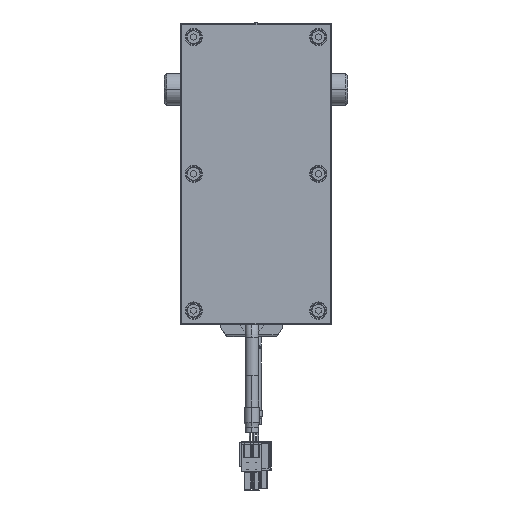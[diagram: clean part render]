
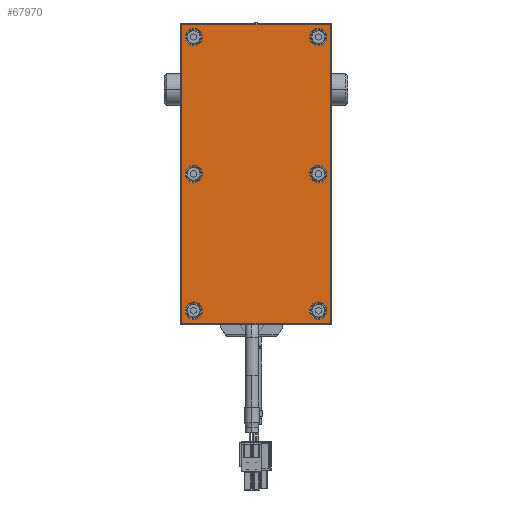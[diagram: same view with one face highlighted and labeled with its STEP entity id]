
A CAD part, front view. The second image highlights one B-rep face of the part: STEP entity #67970.
In plain terms, the highlighted planar face has unit normal (0, -1, 0).
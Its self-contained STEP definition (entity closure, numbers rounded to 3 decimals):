
#66587=CARTESIAN_POINT('',(74.,-6.,-36.5));
#66588=DIRECTION('',(0.,-1.,0.));
#66589=DIRECTION('',(0.,0.,-1.));
#66590=AXIS2_PLACEMENT_3D('',#66587,#66588,#66589);
#66592=DIRECTION('',(1.,0.,0.));
#66593=VECTOR('',#66592,148.);
#66594=CARTESIAN_POINT('',(-74.,-6.,
-37.));
#66595=LINE('',#66594,#66593);
#66596=CARTESIAN_POINT('',(-74.,-6.,-36.5));
#66597=DIRECTION('',(0.,-1.,0.));
#66598=DIRECTION('',(-1.,0.,0.));
#66599=AXIS2_PLACEMENT_3D('',#66596,#66597,#66598);
#66601=DIRECTION('',(0.,0.,-1.));
#66602=VECTOR('',#66601,73.);
#66603=CARTESIAN_POINT('',(-74.5,-6.,
36.5));
#66604=LINE('',#66603,#66602);
#66605=CARTESIAN_POINT('',(-74.,-6.,36.5));
#66606=DIRECTION('',(0.,-1.,0.));
#66607=DIRECTION('',(0.,0.,1.));
#66608=AXIS2_PLACEMENT_3D('',#66605,#66606,#66607);
#66610=DIRECTION('',(-1.,0.,0.));
#66611=VECTOR('',#66610,148.);
#66612=CARTESIAN_POINT('',(74.,-6.,
37.));
#66613=LINE('',#66612,#66611);
#66614=CARTESIAN_POINT('',(74.,-6.,36.5));
#66615=DIRECTION('',(0.,-1.,0.));
#66616=DIRECTION('',(1.,0.,0.));
#66617=AXIS2_PLACEMENT_3D('',#66614,#66615,#66616);
#66619=DIRECTION('',(0.,0.,1.));
#66620=VECTOR('',#66619,73.);
#66621=CARTESIAN_POINT('',(74.5,-6.,
-36.5));
#66622=LINE('',#66621,#66620);
#66623=CARTESIAN_POINT('',(-68.,-6.,-31.));
#66624=DIRECTION('',(0.,1.,0.));
#66625=DIRECTION('',(1.,0.,0.));
#66626=AXIS2_PLACEMENT_3D('',#66623,#66624,#66625);
#66628=CARTESIAN_POINT('',(-68.,-6.,-31.));
#66629=DIRECTION('',(0.,1.,0.));
#66630=DIRECTION('',(-1.,0.,0.));
#66631=AXIS2_PLACEMENT_3D('',#66628,#66629,#66630);
#66633=CARTESIAN_POINT('',(0.,-6.,-31.));
#66634=DIRECTION('',(0.,1.,0.));
#66635=DIRECTION('',(1.,0.,0.));
#66636=AXIS2_PLACEMENT_3D('',#66633,#66634,#66635);
#66638=CARTESIAN_POINT('',(0.,-6.,-31.));
#66639=DIRECTION('',(0.,1.,0.));
#66640=DIRECTION('',(-1.,0.,0.));
#66641=AXIS2_PLACEMENT_3D('',#66638,#66639,#66640);
#66643=CARTESIAN_POINT('',(68.,-6.,-31.));
#66644=DIRECTION('',(0.,1.,0.));
#66645=DIRECTION('',(1.,0.,0.));
#66646=AXIS2_PLACEMENT_3D('',#66643,#66644,#66645);
#66648=CARTESIAN_POINT('',(68.,-6.,-31.));
#66649=DIRECTION('',(0.,1.,0.));
#66650=DIRECTION('',(-1.,0.,0.));
#66651=AXIS2_PLACEMENT_3D('',#66648,#66649,#66650);
#66653=CARTESIAN_POINT('',(68.,-6.,31.));
#66654=DIRECTION('',(0.,1.,0.));
#66655=DIRECTION('',(1.,0.,0.));
#66656=AXIS2_PLACEMENT_3D('',#66653,#66654,#66655);
#66658=CARTESIAN_POINT('',(68.,-6.,31.));
#66659=DIRECTION('',(0.,1.,0.));
#66660=DIRECTION('',(-1.,0.,0.));
#66661=AXIS2_PLACEMENT_3D('',#66658,#66659,#66660);
#66663=CARTESIAN_POINT('',(0.,-6.,31.));
#66664=DIRECTION('',(0.,1.,0.));
#66665=DIRECTION('',(1.,0.,0.));
#66666=AXIS2_PLACEMENT_3D('',#66663,#66664,#66665);
#66668=CARTESIAN_POINT('',(0.,-6.,31.));
#66669=DIRECTION('',(0.,1.,0.));
#66670=DIRECTION('',(-1.,0.,0.));
#66671=AXIS2_PLACEMENT_3D('',#66668,#66669,#66670);
#66673=CARTESIAN_POINT('',(-68.,-6.,31.));
#66674=DIRECTION('',(0.,1.,0.));
#66675=DIRECTION('',(1.,0.,0.));
#66676=AXIS2_PLACEMENT_3D('',#66673,#66674,#66675);
#66678=CARTESIAN_POINT('',(-68.,-6.,31.));
#66679=DIRECTION('',(0.,1.,0.));
#66680=DIRECTION('',(-1.,0.,0.));
#66681=AXIS2_PLACEMENT_3D('',#66678,#66679,#66680);
#67711=CARTESIAN_POINT('',(74.,-6.,-37.));
#67712=CARTESIAN_POINT('',(74.5,-6.,-36.5));
#67713=VERTEX_POINT('',#67711);
#67714=VERTEX_POINT('',#67712);
#67719=CARTESIAN_POINT('',(74.5,-6.,
36.5));
#67720=VERTEX_POINT('',#67719);
#67723=CARTESIAN_POINT('',(74.,-6.,37.));
#67724=VERTEX_POINT('',#67723);
#67727=CARTESIAN_POINT('',(-74.,-6.,
37.));
#67728=VERTEX_POINT('',#67727);
#67731=CARTESIAN_POINT('',(-74.5,-6.,36.5));
#67732=VERTEX_POINT('',#67731);
#67735=CARTESIAN_POINT('',(-74.5,-6.,
-36.5));
#67736=VERTEX_POINT('',#67735);
#67739=CARTESIAN_POINT('',(-74.,-6.,-37.));
#67740=VERTEX_POINT('',#67739);
#67767=CARTESIAN_POINT('',(-63.7,-6.,-31.));
#67768=CARTESIAN_POINT('',(-72.3,-6.,-31.));
#67769=VERTEX_POINT('',#67767);
#67770=VERTEX_POINT('',#67768);
#67783=CARTESIAN_POINT('',(4.3,-6.,-31.));
#67784=CARTESIAN_POINT('',(-4.3,-6.,-31.));
#67785=VERTEX_POINT('',#67783);
#67786=VERTEX_POINT('',#67784);
#67807=CARTESIAN_POINT('',(72.3,-6.,-31.));
#67808=CARTESIAN_POINT('',(63.7,-6.,-31.));
#67809=VERTEX_POINT('',#67807);
#67810=VERTEX_POINT('',#67808);
#67823=CARTESIAN_POINT('',(72.3,-6.,31.));
#67824=CARTESIAN_POINT('',(63.7,-6.,31.));
#67825=VERTEX_POINT('',#67823);
#67826=VERTEX_POINT('',#67824);
#67831=CARTESIAN_POINT('',(4.3,-6.,31.));
#67832=CARTESIAN_POINT('',(-4.3,-6.,31.));
#67833=VERTEX_POINT('',#67831);
#67834=VERTEX_POINT('',#67832);
#67855=CARTESIAN_POINT('',(-63.7,-6.,31.));
#67856=CARTESIAN_POINT('',(-72.3,-6.,31.));
#67857=VERTEX_POINT('',#67855);
#67858=VERTEX_POINT('',#67856);
#67911=CARTESIAN_POINT('',(0.,-6.,0.));
#67912=DIRECTION('',(0.,1.,0.));
#67913=DIRECTION('',(1.,0.,0.));
#67914=AXIS2_PLACEMENT_3D('',#67911,#67912,#67913);
#67915=PLANE('',#67914);
#67917=ORIENTED_EDGE('',*,*,#67916,.F.);
#67919=ORIENTED_EDGE('',*,*,#67918,.F.);
#67921=ORIENTED_EDGE('',*,*,#67920,.F.);
#67923=ORIENTED_EDGE('',*,*,#67922,.F.);
#67925=ORIENTED_EDGE('',*,*,#67924,.F.);
#67927=ORIENTED_EDGE('',*,*,#67926,.F.);
#67929=ORIENTED_EDGE('',*,*,#67928,.F.);
#67931=ORIENTED_EDGE('',*,*,#67930,.F.);
#67932=EDGE_LOOP('',(#67917,#67919,#67921,#67923,#67925,#67927,#67929,#67931));
#67933=FACE_OUTER_BOUND('',#67932,.F.);
#67935=ORIENTED_EDGE('',*,*,#67934,.F.);
#67937=ORIENTED_EDGE('',*,*,#67936,.F.);
#67938=EDGE_LOOP('',(#67935,#67937));
#67939=FACE_BOUND('',#67938,.F.);
#67941=ORIENTED_EDGE('',*,*,#67940,.F.);
#67943=ORIENTED_EDGE('',*,*,#67942,.F.);
#67944=EDGE_LOOP('',(#67941,#67943));
#67945=FACE_BOUND('',#67944,.F.);
#67947=ORIENTED_EDGE('',*,*,#67946,.F.);
#67949=ORIENTED_EDGE('',*,*,#67948,.F.);
#67950=EDGE_LOOP('',(#67947,#67949));
#67951=FACE_BOUND('',#67950,.F.);
#67953=ORIENTED_EDGE('',*,*,#67952,.F.);
#67955=ORIENTED_EDGE('',*,*,#67954,.F.);
#67956=EDGE_LOOP('',(#67953,#67955));
#67957=FACE_BOUND('',#67956,.F.);
#67959=ORIENTED_EDGE('',*,*,#67958,.F.);
#67961=ORIENTED_EDGE('',*,*,#67960,.F.);
#67962=EDGE_LOOP('',(#67959,#67961));
#67963=FACE_BOUND('',#67962,.F.);
#67965=ORIENTED_EDGE('',*,*,#67964,.F.);
#67967=ORIENTED_EDGE('',*,*,#67966,.F.);
#67968=EDGE_LOOP('',(#67965,#67967));
#67969=FACE_BOUND('',#67968,.F.);
#67970=ADVANCED_FACE('',(#67933,#67939,#67945,#67951,#67957,#67963,#67969),
#67915,.F.);
#66591=CIRCLE('',#66590,0.5);
#66600=CIRCLE('',#66599,0.5);
#66609=CIRCLE('',#66608,0.5);
#66618=CIRCLE('',#66617,0.5);
#66627=CIRCLE('',#66626,4.3);
#66632=CIRCLE('',#66631,4.3);
#66637=CIRCLE('',#66636,4.3);
#66642=CIRCLE('',#66641,4.3);
#66647=CIRCLE('',#66646,4.3);
#66652=CIRCLE('',#66651,4.3);
#66657=CIRCLE('',#66656,4.3);
#66662=CIRCLE('',#66661,4.3);
#66667=CIRCLE('',#66666,4.3);
#66672=CIRCLE('',#66671,4.3);
#66677=CIRCLE('',#66676,4.3);
#66682=CIRCLE('',#66681,4.3);
#67916=EDGE_CURVE('',#67713,#67714,#66591,.T.);
#67918=EDGE_CURVE('',#67740,#67713,#66595,.T.);
#67920=EDGE_CURVE('',#67736,#67740,#66600,.T.);
#67922=EDGE_CURVE('',#67732,#67736,#66604,.T.);
#67924=EDGE_CURVE('',#67728,#67732,#66609,.T.);
#67926=EDGE_CURVE('',#67724,#67728,#66613,.T.);
#67928=EDGE_CURVE('',#67720,#67724,#66618,.T.);
#67930=EDGE_CURVE('',#67714,#67720,#66622,.T.);
#67934=EDGE_CURVE('',#67769,#67770,#66627,.T.);
#67936=EDGE_CURVE('',#67770,#67769,#66632,.T.);
#67940=EDGE_CURVE('',#67785,#67786,#66637,.T.);
#67942=EDGE_CURVE('',#67786,#67785,#66642,.T.);
#67946=EDGE_CURVE('',#67809,#67810,#66647,.T.);
#67948=EDGE_CURVE('',#67810,#67809,#66652,.T.);
#67952=EDGE_CURVE('',#67825,#67826,#66657,.T.);
#67954=EDGE_CURVE('',#67826,#67825,#66662,.T.);
#67958=EDGE_CURVE('',#67833,#67834,#66667,.T.);
#67960=EDGE_CURVE('',#67834,#67833,#66672,.T.);
#67964=EDGE_CURVE('',#67857,#67858,#66677,.T.);
#67966=EDGE_CURVE('',#67858,#67857,#66682,.T.);
